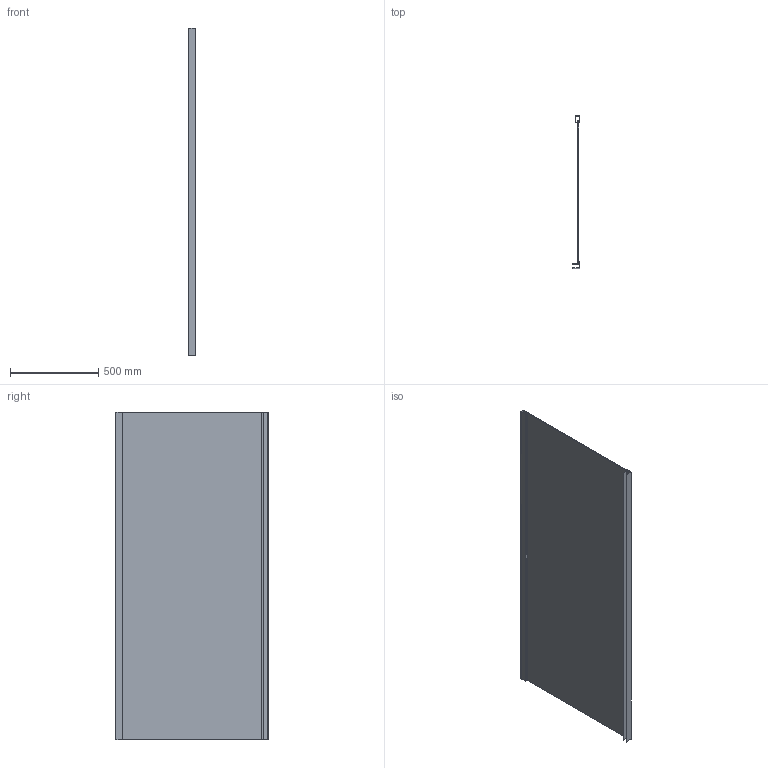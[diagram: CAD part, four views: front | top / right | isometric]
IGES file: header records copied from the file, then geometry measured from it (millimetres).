
Global section: file name: C:\Users\user\Downloads\MOOC_20160920_(2z2)\Bronx 10P 80\Bronx 10P 80.igs; native system: Rhinoceros ( Feb  3 2015 ); preprocessor: Trout Lake IGES 012 Feb  3 2015; date: 161007.093035; units: millimetre
Bounding box: 40.24 x 862.53 x 1850 mm (x, y, z)
Surface area: 4360809.4 mm2 (no closed solid volume)
Topology: 0 solids, 0 shells, 89 faces, 499 edges, 499 vertices
Faces by surface type: bspline 89
